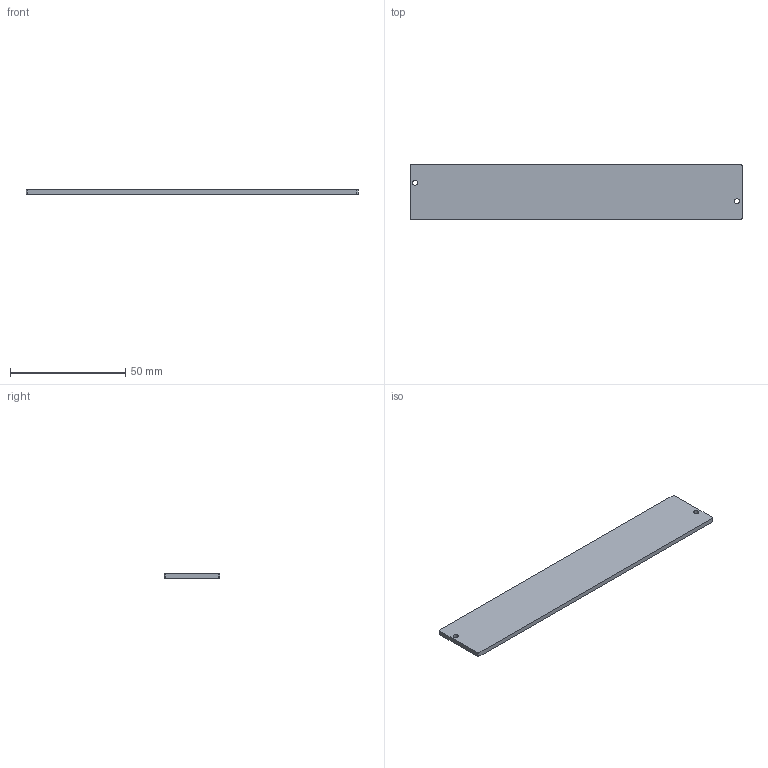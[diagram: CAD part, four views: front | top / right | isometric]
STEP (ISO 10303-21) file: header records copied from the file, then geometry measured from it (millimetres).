
FILE_DESCRIPTION (( 'STEP AP214' ), '1' );
FILE_NAME ('LBS45-00-135-3-DIFFUSER.STEP', '2021-11-05T06:17:11', ( '' ), ( '' ), 'SwSTEP 2.0', 'SolidWorks 2021', '' );
FILE_SCHEMA (( 'AUTOMOTIVE_DESIGN' ));
Length unit declared in the file: millimetre
Products named in the file (1): LBS45-00-135-3-DIFFUSER
Bounding box: 144 x 24 x 2 mm (x, y, z)
Volume: 6896.4 mm3; surface area: 7594.3 mm2
Topology: 1 solids, 1 shells, 14 faces, 36 edges, 24 vertices
Faces by surface type: cylinder 8, plane 6
Entity records: 478 total; most frequent: DIRECTION 82, CARTESIAN_POINT 75, ORIENTED_EDGE 72, EDGE_CURVE 36, AXIS2_PLACEMENT_3D 31, VERTEX_POINT 24, VECTOR 20, LINE 20
